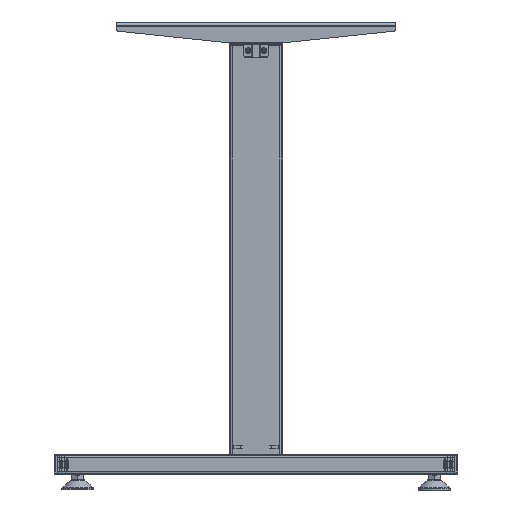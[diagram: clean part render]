
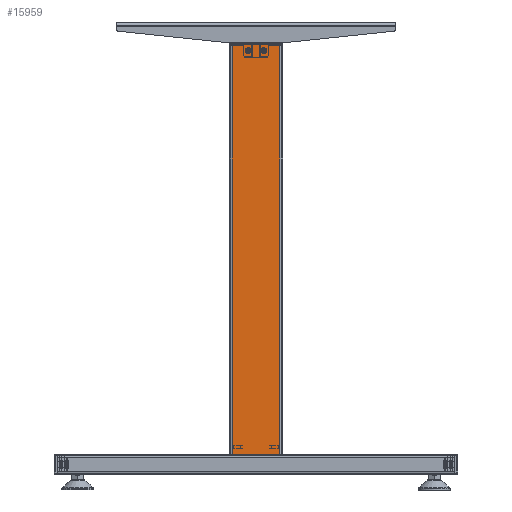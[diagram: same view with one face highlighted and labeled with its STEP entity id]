
A CAD part, front view. The second image highlights one B-rep face of the part: STEP entity #15959.
In plain terms, the highlighted planar face has unit normal (0, -1, 0) as drawn and (0, 0, -1) by its records, which use the part's own axes.
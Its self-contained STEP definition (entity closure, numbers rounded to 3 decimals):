
#631=LINE('',#26731,#1702);
#635=LINE('',#26750,#1706);
#647=LINE('',#26787,#1718);
#650=LINE('',#26797,#1721);
#1702=VECTOR('',#21834,1000.);
#1706=VECTOR('',#21852,1000.);
#1718=VECTOR('',#21892,1000.);
#1721=VECTOR('',#21905,1000.);
#3138=PLANE('',#19752);
#3779=ORIENTED_EDGE('',*,*,#8133,.T.);
#3780=ORIENTED_EDGE('',*,*,#8153,.F.);
#3781=ORIENTED_EDGE('',*,*,#8124,.F.);
#3782=ORIENTED_EDGE('',*,*,#8158,.T.);
#3783=ORIENTED_EDGE('',*,*,#8159,.T.);
#3784=ORIENTED_EDGE('',*,*,#8160,.T.);
#8124=EDGE_CURVE('',#10360,#10355,#631,.T.);
#8133=EDGE_CURVE('',#10369,#10367,#635,.T.);
#8153=EDGE_CURVE('',#10355,#10367,#647,.T.);
#8158=EDGE_CURVE('',#10360,#10369,#650,.T.);
#8159=EDGE_CURVE('',#10382,#10382,#11835,.T.);
#8160=EDGE_CURVE('',#10383,#10383,#11836,.T.);
#10355=VERTEX_POINT('',#26720);
#10360=VERTEX_POINT('',#26730);
#10367=VERTEX_POINT('',#26748);
#10369=VERTEX_POINT('',#26751);
#10382=VERTEX_POINT('',#26799);
#10383=VERTEX_POINT('',#26801);
#11835=CIRCLE('',#19753,4.15);
#11836=CIRCLE('',#19754,4.15);
#12712=EDGE_LOOP('',(#3779,#3780,#3781,#3782));
#12713=EDGE_LOOP('',(#3783));
#12714=EDGE_LOOP('',(#3784));
#14182=FACE_BOUND('',#12712,.T.);
#14183=FACE_BOUND('',#12713,.T.);
#14184=FACE_BOUND('',#12714,.T.);
#15959=ADVANCED_FACE('',(#14182,#14183,#14184),#3138,.F.);
#19752=AXIS2_PLACEMENT_3D('',#26796,#21903,#21904);
#19753=AXIS2_PLACEMENT_3D('',#26798,#21906,#21907);
#19754=AXIS2_PLACEMENT_3D('',#26800,#21908,#21909);
#21834=DIRECTION('',(-1.,0.,0.));
#21852=DIRECTION('',(-1.,0.,0.));
#21892=DIRECTION('',(0.,-1.,0.));
#21903=DIRECTION('',(0.,0.,1.));
#21904=DIRECTION('',(1.,0.,0.));
#21905=DIRECTION('',(0.,-1.,0.));
#21906=DIRECTION('',(0.,0.,1.));
#21907=DIRECTION('',(1.,0.,0.));
#21908=DIRECTION('',(0.,0.,1.));
#21909=DIRECTION('',(1.,0.,0.));
#26720=CARTESIAN_POINT('',(-35.,610.,-25.));
#26730=CARTESIAN_POINT('',(35.,610.,-25.));
#26731=CARTESIAN_POINT('',(-35.,610.,-25.));
#26748=CARTESIAN_POINT('',(-35.,0.,-25.));
#26750=CARTESIAN_POINT('',(-35.,0.,-25.));
#26751=CARTESIAN_POINT('',(35.,0.,-25.));
#26787=CARTESIAN_POINT('',(-35.,610.,-25.));
#26796=CARTESIAN_POINT('',(-35.,610.,-25.));
#26797=CARTESIAN_POINT('',(35.,610.,-25.));
#26798=CARTESIAN_POINT('',(11.75,600.,-25.));
#26799=CARTESIAN_POINT('',(15.9,600.,-25.));
#26800=CARTESIAN_POINT('',(-11.75,600.,-25.));
#26801=CARTESIAN_POINT('',(-7.6,600.,-25.));
